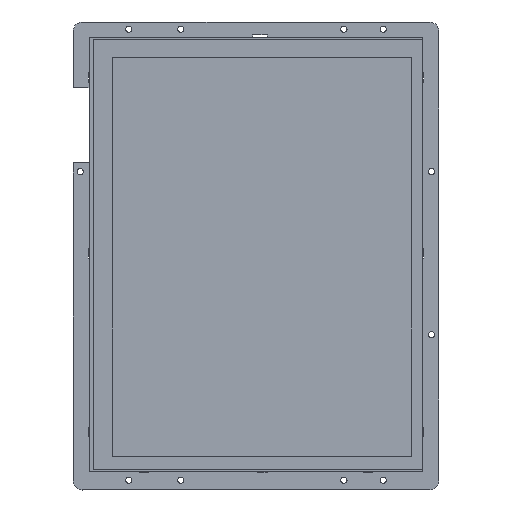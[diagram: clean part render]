
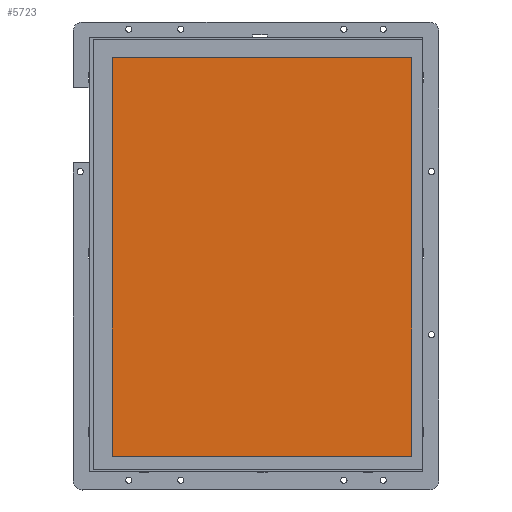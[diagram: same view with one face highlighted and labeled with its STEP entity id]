
A CAD part, top view. The second image highlights one B-rep face of the part: STEP entity #5723.
In plain terms, the highlighted planar face has unit normal (0, 0, 1).
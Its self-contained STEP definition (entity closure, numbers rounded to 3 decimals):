
#1792=DIRECTION('',(0.,1.,0.));
#1793=VECTOR('',#1792,211.2);
#1794=CARTESIAN_POINT('',(82.341,-106.761,11.8));
#1795=LINE('',#1794,#1793);
#1796=DIRECTION('',(1.,0.,0.));
#1797=VECTOR('',#1796,158.4);
#1798=CARTESIAN_POINT('',(-76.06,-106.761,11.8));
#1799=LINE('',#1798,#1797);
#1800=DIRECTION('',(0.,-1.,0.));
#1801=VECTOR('',#1800,211.2);
#1802=CARTESIAN_POINT('',(-76.06,104.439,11.8));
#1803=LINE('',#1802,#1801);
#1804=DIRECTION('',(-1.,0.,0.));
#1805=VECTOR('',#1804,158.4);
#1806=CARTESIAN_POINT('',(82.341,104.439,11.8));
#1807=LINE('',#1806,#1805);
#3100=CARTESIAN_POINT('',(82.341,-106.761,11.8));
#3101=CARTESIAN_POINT('',(82.341,104.439,11.8));
#3102=VERTEX_POINT('',#3100);
#3103=VERTEX_POINT('',#3101);
#3104=CARTESIAN_POINT('',(-76.06,104.439,11.8));
#3105=VERTEX_POINT('',#3104);
#3106=CARTESIAN_POINT('',(-76.06,-106.761,11.8));
#3107=VERTEX_POINT('',#3106);
#5712=CARTESIAN_POINT('',(3.141,-1.161,11.8));
#5713=DIRECTION('',(0.,0.,1.));
#5714=DIRECTION('',(0.,-1.,0.));
#5715=AXIS2_PLACEMENT_3D('',#5712,#5713,#5714);
#5716=PLANE('',#5715);
#5717=ORIENTED_EDGE('',*,*,#5664,.F.);
#5718=ORIENTED_EDGE('',*,*,#5679,.F.);
#5719=ORIENTED_EDGE('',*,*,#5693,.F.);
#5720=ORIENTED_EDGE('',*,*,#5706,.F.);
#5721=EDGE_LOOP('',(#5717,#5718,#5719,#5720));
#5722=FACE_OUTER_BOUND('',#5721,.F.);
#5664=EDGE_CURVE('',#3102,#3103,#1795,.T.);
#5679=EDGE_CURVE('',#3107,#3102,#1799,.T.);
#5693=EDGE_CURVE('',#3105,#3107,#1803,.T.);
#5706=EDGE_CURVE('',#3103,#3105,#1807,.T.);
#5723=ADVANCED_FACE('',(#5722),#5716,.T.);
